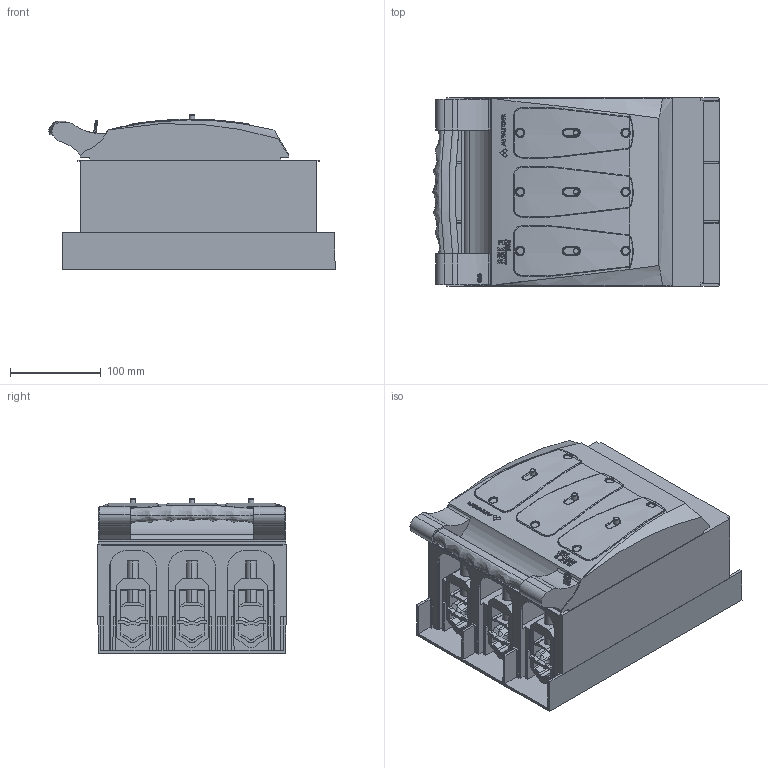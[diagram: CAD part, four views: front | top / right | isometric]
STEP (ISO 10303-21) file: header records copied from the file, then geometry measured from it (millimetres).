
FILE_DESCRIPTION(/* description */ (''),/* implementation_level */ '2;1');
FILE_NAME(/* name */ 'RBK 2 pro-2V - 63-811685-081.stp',/* time_stamp */ '2019-03-12T14:28:01+01:00',/* author */ (''),/* organization */ (''),/* preprocessor_version */ 'ST-DEVELOPER v16',/* originating_system */ 'SIEMENS PLM Software NX 10.0',/* authorisation */ '');
FILE_SCHEMA (('AUTOMOTIVE_DESIGN { 1 0 10303 214 3 1 1 1 }'));
Products named in the file (1): 710_2B44DAB98rfj
Bounding box: 314.82 x 208 x 169.8 mm (x, y, z)
Volume: 7083716.3 mm3; surface area: 513230.1 mm2
Topology: 1 solids, 13 shells, 2121 faces, 5999 edges, 3927 vertices
Faces by surface type: plane 1381, bspline 313, cylinder 256, extrusion 95, cone 67, torus 9
Full cylindrical faces by diameter (mm): 6 x3, 16.84 x2, 16.849 x1
Entity records: 333600 total; most frequent: CARTESIAN_POINT 270896, ORIENTED_EDGE 11874, DIRECTION 10320, EDGE_CURVE 5937, VERTEX_POINT 3910, AXIS2_PLACEMENT_3D 3497, VECTOR 3326, LINE 3231
